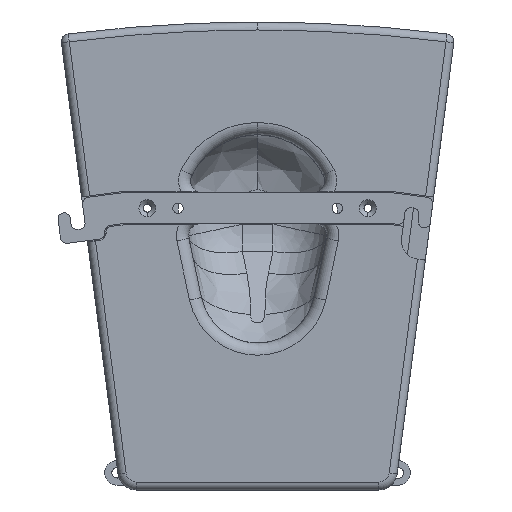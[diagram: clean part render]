
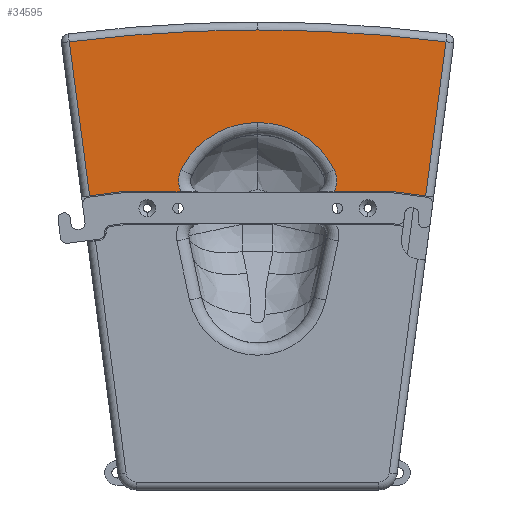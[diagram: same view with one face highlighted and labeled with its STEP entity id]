
A CAD part, front view. The second image highlights one B-rep face of the part: STEP entity #34595.
In plain terms, the highlighted planar face has unit normal (0, -1, 0).
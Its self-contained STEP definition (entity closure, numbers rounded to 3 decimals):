
#254 = EDGE_CURVE ( 'NONE', #31608, #31416, #6091, .T. ) ;
#385 = EDGE_CURVE ( 'NONE', #31490, #31515, #6204, .T. ) ;
#549 = EDGE_CURVE ( 'NONE', #31636, #31537, #10800, .T. ) ;
#581 = EDGE_CURVE ( 'NONE', #31515, #31537, #10796, .T. ) ;
#823 = EDGE_CURVE ( 'NONE', #31689, #31365, #10915, .T. ) ;
#829 = EDGE_CURVE ( 'NONE', #31685, #31627, #10941, .T. ) ;
#848 = EDGE_CURVE ( 'NONE', #31631, #31689, #10970, .T. ) ;
#980 = EDGE_CURVE ( 'NONE', #31441, #31627, #11036, .T. ) ;
#1020 = EDGE_CURVE ( 'NONE', #31608, #31656, #11048, .T. ) ;
#1051 = EDGE_CURVE ( 'NONE', #31685, #31656, #11078, .T. ) ;
#1240 = EDGE_CURVE ( 'NONE', #31631, #31637, #11173, .T. ) ;
#1332 = EDGE_CURVE ( 'NONE', #31636, #31637, #11288, .T. ) ;
#2047 = EDGE_CURVE ( 'NONE', #31365, #31441, #23674, .T. ) ;
#2059 = EDGE_CURVE ( 'NONE', #31416, #31490, #23682, .T. ) ;
#2760 = ORIENTED_EDGE ( 'NONE', *, *, #549, .F. ) ;
#2808 = ORIENTED_EDGE ( 'NONE', *, *, #848, .T. ) ;
#2819 = ORIENTED_EDGE ( 'NONE', *, *, #1240, .F. ) ;
#2820 = ORIENTED_EDGE ( 'NONE', *, *, #823, .T. ) ;
#2822 = ORIENTED_EDGE ( 'NONE', *, *, #581, .T. ) ;
#2823 = ORIENTED_EDGE ( 'NONE', *, *, #2059, .T. ) ;
#2826 = ORIENTED_EDGE ( 'NONE', *, *, #829, .F. ) ;
#2832 = ORIENTED_EDGE ( 'NONE', *, *, #254, .T. ) ;
#2843 = ORIENTED_EDGE ( 'NONE', *, *, #2047, .T. ) ;
#2848 = ORIENTED_EDGE ( 'NONE', *, *, #1051, .T. ) ;
#2849 = ORIENTED_EDGE ( 'NONE', *, *, #1020, .F. ) ;
#2852 = ORIENTED_EDGE ( 'NONE', *, *, #1332, .T. ) ;
#2857 = ORIENTED_EDGE ( 'NONE', *, *, #385, .T. ) ;
#2860 = ORIENTED_EDGE ( 'NONE', *, *, #980, .T. ) ;
#6075 = VECTOR ( 'NONE', #21193, 1000. ) ;
#6091 = LINE ( 'NONE', #21181, #6075 ) ;
#6204 = CIRCLE ( 'NONE', #8550, 1227.399 ) ;
#7520 = FACE_OUTER_BOUND ( 'NONE', #31501, .T. ) ;
#8550 = AXIS2_PLACEMENT_3D ( 'NONE', #21457, #21452, #21458 ) ;
#8622 = AXIS2_PLACEMENT_3D ( 'NONE', #33857, #33871, #33865 ) ;
#8648 = AXIS2_PLACEMENT_3D ( 'NONE', #20540, #20567, #20544 ) ;
#8659 = AXIS2_PLACEMENT_3D ( 'NONE', #34172, #34180, #34182 ) ;
#8681 = AXIS2_PLACEMENT_3D ( 'NONE', #34301, #34308, #34312 ) ;
#8777 = AXIS2_PLACEMENT_3D ( 'NONE', #32683, #32680, #32706 ) ;
#8941 = AXIS2_PLACEMENT_3D ( 'NONE', #28881, #28898, #28856 ) ;
#9107 = AXIS2_PLACEMENT_3D ( 'NONE', #28942, #28925, #28946 ) ;
#10771 = VECTOR ( 'NONE', #19656, 1000. ) ;
#10784 = VECTOR ( 'NONE', #19769, 1000. ) ;
#10796 = LINE ( 'NONE', #19759, #10784 ) ;
#10800 = LINE ( 'NONE', #19607, #10771 ) ;
#10915 = CIRCLE ( 'NONE', #8648, 70. ) ;
#10934 = VECTOR ( 'NONE', #20569, 1000. ) ;
#10941 = LINE ( 'NONE', #20565, #10934 ) ;
#10970 = CIRCLE ( 'NONE', #8622, 20. ) ;
#11036 = CIRCLE ( 'NONE', #8659, 20. ) ;
#11048 = LINE ( 'NONE', #34210, #11050 ) ;
#11050 = VECTOR ( 'NONE', #34196, 1000. ) ;
#11078 = CIRCLE ( 'NONE', #8681, 10. ) ;
#11173 = LINE ( 'NONE', #32572, #11203 ) ;
#11203 = VECTOR ( 'NONE', #32542, 1000. ) ;
#11288 = CIRCLE ( 'NONE', #8777, 10. ) ;
#11644 = PLANE ( 'NONE',  #15822 ) ;
#11652 = DIRECTION ( 'NONE',  ( 0., -1., 0. ) ) ;
#11688 = CARTESIAN_POINT ( 'NONE',  ( -153.5, -350., -16.152 ) ) ;
#11690 = DIRECTION ( 'NONE',  ( 0., 0., -1. ) ) ;
#14285 = CARTESIAN_POINT ( 'NONE',  ( 0., -350., -80. ) ) ;
#14306 = CARTESIAN_POINT ( 'NONE',  ( 153.761, -350., -14.169 ) ) ;
#14318 = CARTESIAN_POINT ( 'NONE',  ( 0., -350., -4.5 ) ) ;
#14330 = CARTESIAN_POINT ( 'NONE',  ( 62.512, -350., -118.5 ) ) ;
#14397 = CARTESIAN_POINT ( 'NONE',  ( -137.201, -350., -139.957 ) ) ;
#14421 = CARTESIAN_POINT ( 'NONE',  ( -153.761, -350., -14.169 ) ) ;
#14428 = CARTESIAN_POINT ( 'NONE',  ( -62.512, -350., -136.5 ) ) ;
#14429 = CARTESIAN_POINT ( 'NONE',  ( -110.289, -350., -136.5 ) ) ;
#14431 = CARTESIAN_POINT ( 'NONE',  ( 137.201, -350., -139.957 ) ) ;
#14440 = CARTESIAN_POINT ( 'NONE',  ( 110.289, -350., -136.5 ) ) ;
#14443 = CARTESIAN_POINT ( 'NONE',  ( 62.512, -350., -136.5 ) ) ;
#14460 = CARTESIAN_POINT ( 'NONE',  ( -111.594, -350., -136.586 ) ) ;
#14481 = CARTESIAN_POINT ( 'NONE',  ( 111.594, -350., -136.586 ) ) ;
#14496 = CARTESIAN_POINT ( 'NONE',  ( -62.512, -350., -118.5 ) ) ;
#15822 = AXIS2_PLACEMENT_3D ( 'NONE', #11688, #11652, #11690 ) ;
#19607 = CARTESIAN_POINT ( 'NONE',  ( -143.645, -350., -140.805 ) ) ;
#19656 = DIRECTION ( 'NONE',  ( -0.991, 0., -0.131 ) ) ;
#19759 = CARTESIAN_POINT ( 'NONE',  ( -153.5, -350., -16.152 ) ) ;
#19769 = DIRECTION ( 'NONE',  ( 0.131, 0., -0.991 ) ) ;
#20540 = CARTESIAN_POINT ( 'NONE',  ( 0., -350., -150. ) ) ;
#20544 = DIRECTION ( 'NONE',  ( 0., 0., 1. ) ) ;
#20565 = CARTESIAN_POINT ( 'NONE',  ( -110.944, -350., -136.5 ) ) ;
#20567 = DIRECTION ( 'NONE',  ( 0., 1., 0. ) ) ;
#20569 = DIRECTION ( 'NONE',  ( -1., 0., 0. ) ) ;
#21181 = CARTESIAN_POINT ( 'NONE',  ( 148.27, -350., -55.881 ) ) ;
#21193 = DIRECTION ( 'NONE',  ( 0.131, 0., 0.991 ) ) ;
#21452 = DIRECTION ( 'NONE',  ( 0., -1., 0. ) ) ;
#21457 = CARTESIAN_POINT ( 'NONE',  ( 0., -350., -1231.899 ) ) ;
#21458 = DIRECTION ( 'NONE',  ( 0., 0., 1. ) ) ;
#23674 = CIRCLE ( 'NONE', #8941, 70. ) ;
#23682 = CIRCLE ( 'NONE', #9107, 1227.399 ) ;
#28856 = DIRECTION ( 'NONE',  ( 0., 0., 1. ) ) ;
#28881 = CARTESIAN_POINT ( 'NONE',  ( 0., -350., -150. ) ) ;
#28898 = DIRECTION ( 'NONE',  ( 0., 1., 0. ) ) ;
#28925 = DIRECTION ( 'NONE',  ( 0., -1., 0. ) ) ;
#28942 = CARTESIAN_POINT ( 'NONE',  ( 0., -350., -1231.899 ) ) ;
#28946 = DIRECTION ( 'NONE',  ( 0., 0., 1. ) ) ;
#31365 = VERTEX_POINT ( 'NONE', #14285 ) ;
#31416 = VERTEX_POINT ( 'NONE', #14306 ) ;
#31441 = VERTEX_POINT ( 'NONE', #14330 ) ;
#31490 = VERTEX_POINT ( 'NONE', #14318 ) ;
#31501 = EDGE_LOOP ( 'NONE', ( #2849, #2832, #2823, #2857, #2822, #2760, #2852, #2819, #2808, #2820, #2843, #2860, #2826, #2848 ) ) ;
#31515 = VERTEX_POINT ( 'NONE', #14421 ) ;
#31537 = VERTEX_POINT ( 'NONE', #14397 ) ;
#31608 = VERTEX_POINT ( 'NONE', #14431 ) ;
#31627 = VERTEX_POINT ( 'NONE', #14443 ) ;
#31631 = VERTEX_POINT ( 'NONE', #14428 ) ;
#31636 = VERTEX_POINT ( 'NONE', #14460 ) ;
#31637 = VERTEX_POINT ( 'NONE', #14429 ) ;
#31656 = VERTEX_POINT ( 'NONE', #14481 ) ;
#31685 = VERTEX_POINT ( 'NONE', #14440 ) ;
#31689 = VERTEX_POINT ( 'NONE', #14496 ) ;
#32542 = DIRECTION ( 'NONE',  ( -1., 0., 0. ) ) ;
#32572 = CARTESIAN_POINT ( 'NONE',  ( -110.944, -350., -136.5 ) ) ;
#32680 = DIRECTION ( 'NONE',  ( 0., 1., 0. ) ) ;
#32683 = CARTESIAN_POINT ( 'NONE',  ( -110.289, -350., -146.5 ) ) ;
#32706 = DIRECTION ( 'NONE',  ( 0., 0., 1. ) ) ;
#33857 = CARTESIAN_POINT ( 'NONE',  ( -44.651, -350., -127.5 ) ) ;
#33865 = DIRECTION ( 'NONE',  ( 0., 0., 1. ) ) ;
#33871 = DIRECTION ( 'NONE',  ( 0., 1., 0. ) ) ;
#34172 = CARTESIAN_POINT ( 'NONE',  ( 44.651, -350., -127.5 ) ) ;
#34180 = DIRECTION ( 'NONE',  ( 0., 1., 0. ) ) ;
#34182 = DIRECTION ( 'NONE',  ( 0., 0., 1. ) ) ;
#34196 = DIRECTION ( 'NONE',  ( -0.991, 0., 0.131 ) ) ;
#34210 = CARTESIAN_POINT ( 'NONE',  ( 110.944, -350., -136.5 ) ) ;
#34301 = CARTESIAN_POINT ( 'NONE',  ( 110.289, -350., -146.5 ) ) ;
#34308 = DIRECTION ( 'NONE',  ( 0., 1., 0. ) ) ;
#34312 = DIRECTION ( 'NONE',  ( 0., 0., 1. ) ) ;
#34595 = ADVANCED_FACE ( 'NONE', ( #7520 ), #11644, .T. ) ;
